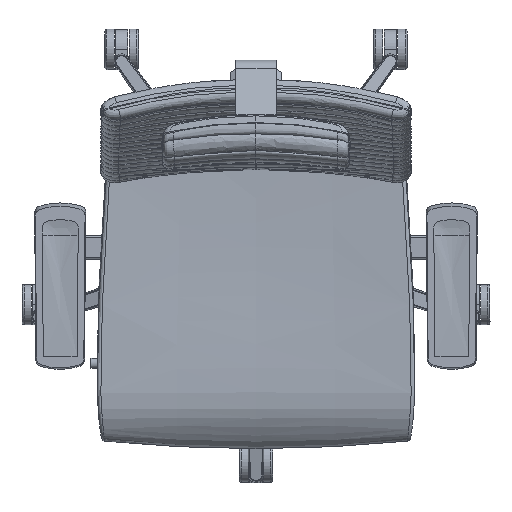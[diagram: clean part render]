
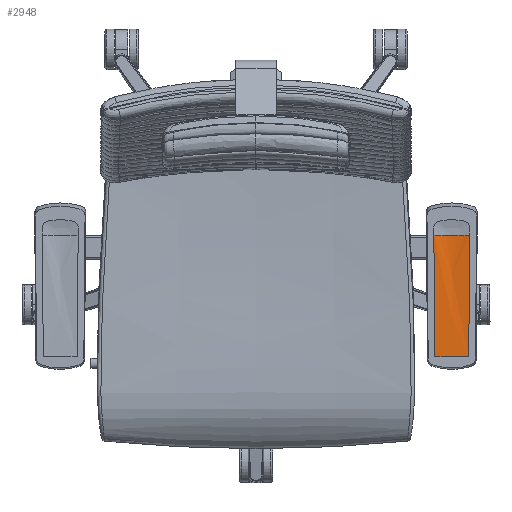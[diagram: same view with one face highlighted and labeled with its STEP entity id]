
A CAD part, top view. The second image highlights one B-rep face of the part: STEP entity #2948.
In plain terms, the highlighted free-form (B-spline) face has degree [3, 2] with [4, 3] control points.
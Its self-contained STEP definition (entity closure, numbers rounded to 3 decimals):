
#1593=B_SPLINE_CURVE_WITH_KNOTS('',1,(#55437,#55438),.UNSPECIFIED.,.F.,
 .F.,(2,2),(0.,50.276),.UNSPECIFIED.);
#1942=(
BOUNDED_SURFACE()
B_SPLINE_SURFACE(3,2,((#55257,#55258,#55259),(#55260,#55261,#55262),(#55263,
#55264,#55265),(#55266,#55267,#55268)),.UNSPECIFIED.,.F.,.F.,.F.)
B_SPLINE_SURFACE_WITH_KNOTS((4,4),(3,3),(0.,180.167),(-53.728,
0.),.UNSPECIFIED.)
GEOMETRIC_REPRESENTATION_ITEM()
RATIONAL_B_SPLINE_SURFACE(((1.,0.975,1.),(1.,0.975,
1.),(1.,0.975,1.),(1.,0.975,1.)))
REPRESENTATION_ITEM('')
SURFACE()
);
#2948=ADVANCED_FACE('',(#3723),#1942,.T.);
#3723=FACE_OUTER_BOUND('',#4498,.T.);
#4498=EDGE_LOOP('',(#7226,#7227,#7228,#7229,#7230));
#7226=ORIENTED_EDGE('',*,*,#9364,.T.);
#7227=ORIENTED_EDGE('',*,*,#9362,.T.);
#7228=ORIENTED_EDGE('',*,*,#9363,.T.);
#7229=ORIENTED_EDGE('',*,*,#9365,.T.);
#7230=ORIENTED_EDGE('',*,*,#9381,.T.);
#9362=EDGE_CURVE('',#11096,#11097,#9817,.T.);
#9363=EDGE_CURVE('',#11097,#11095,#9818,.T.);
#9364=EDGE_CURVE('',#11098,#11096,#10178,.T.);
#9365=EDGE_CURVE('',#11095,#11099,#10179,.T.);
#9381=EDGE_CURVE('',#11099,#11098,#1593,.T.);
#9817=TRIMMED_CURVE($,#9963,(#55347),(#55348),.T.,.CARTESIAN.);
#9818=TRIMMED_CURVE($,#9964,(#55350),(#55351),.T.,.CARTESIAN.);
#9963=CIRCLE('',#11921,119.774);
#9964=CIRCLE('',#11922,119.774);
#10178=(
BOUNDED_CURVE()
B_SPLINE_CURVE(3,(#55352,#55353,#55354,#55355),.UNSPECIFIED.,.F.,.F.)
B_SPLINE_CURVE_WITH_KNOTS((4,4),(0.,180.167),.UNSPECIFIED.)
CURVE()
GEOMETRIC_REPRESENTATION_ITEM()
RATIONAL_B_SPLINE_CURVE((1.,1.,1.,1.))
REPRESENTATION_ITEM('')
);
#10179=(
BOUNDED_CURVE()
B_SPLINE_CURVE(3,(#55356,#55357,#55358,#55359),.UNSPECIFIED.,.F.,.F.)
B_SPLINE_CURVE_WITH_KNOTS((4,4),(-180.167,0.),.UNSPECIFIED.)
CURVE()
GEOMETRIC_REPRESENTATION_ITEM()
RATIONAL_B_SPLINE_CURVE((1.,1.,1.,1.))
REPRESENTATION_ITEM('')
);
#11095=VERTEX_POINT('',#55320);
#11096=VERTEX_POINT('',#55321);
#11097=VERTEX_POINT('',#55322);
#11098=VERTEX_POINT('',#55323);
#11099=VERTEX_POINT('',#55324);
#11921=AXIS2_PLACEMENT_3D($,#55346,#12457,#12458);
#11922=AXIS2_PLACEMENT_3D($,#55349,#12459,#12460);
#12457=DIRECTION('',(0.,1.,-0.002));
#12458=DIRECTION('',(0.222,-0.002,-0.975));
#12459=DIRECTION('',(0.,1.,-0.002));
#12460=DIRECTION('',(0.,-0.002,-1.));
#55257=CARTESIAN_POINT('',(315.828,-164.805,673.407));
#55258=CARTESIAN_POINT('',(290.691,-164.805,673.407));
#55259=CARTESIAN_POINT('',(265.553,-164.805,673.407));
#55260=CARTESIAN_POINT('',(316.329,-104.752,673.259));
#55261=CARTESIAN_POINT('',(290.691,-104.752,673.31));
#55262=CARTESIAN_POINT('',(265.052,-104.752,673.259));
#55263=CARTESIAN_POINT('',(316.829,-44.699,673.11));
#55264=CARTESIAN_POINT('',(290.691,-44.713,667.198));
#55265=CARTESIAN_POINT('',(264.552,-44.699,673.11));
#55266=CARTESIAN_POINT('',(317.33,15.355,672.962));
#55267=CARTESIAN_POINT('',(290.691,15.34,666.885));
#55268=CARTESIAN_POINT('',(264.051,15.355,672.962));
#55320=CARTESIAN_POINT('',(264.051,15.355,672.962));
#55321=CARTESIAN_POINT('',(317.33,15.355,672.962));
#55322=CARTESIAN_POINT('',(290.691,15.347,669.962));
#55323=CARTESIAN_POINT('',(315.828,-164.805,673.407));
#55324=CARTESIAN_POINT('',(265.553,-164.805,673.407));
#55346=CARTESIAN_POINT('',(290.691,15.643,789.735));
#55347=CARTESIAN_POINT('',(317.33,15.355,672.962));
#55348=CARTESIAN_POINT('',(290.691,15.347,669.962));
#55349=CARTESIAN_POINT('',(290.691,15.643,789.735));
#55350=CARTESIAN_POINT('',(290.691,15.347,669.962));
#55351=CARTESIAN_POINT('',(264.051,15.355,672.962));
#55352=CARTESIAN_POINT('',(315.828,-164.805,673.407));
#55353=CARTESIAN_POINT('',(316.329,-104.752,673.259));
#55354=CARTESIAN_POINT('',(316.829,-44.699,673.11));
#55355=CARTESIAN_POINT('',(317.33,15.355,672.962));
#55356=CARTESIAN_POINT('',(264.051,15.355,672.962));
#55357=CARTESIAN_POINT('',(264.552,-44.699,673.11));
#55358=CARTESIAN_POINT('',(265.052,-104.752,673.259));
#55359=CARTESIAN_POINT('',(265.553,-164.805,673.407));
#55437=CARTESIAN_POINT('',(265.553,-164.805,673.407));
#55438=CARTESIAN_POINT('',(315.828,-164.805,673.407));
